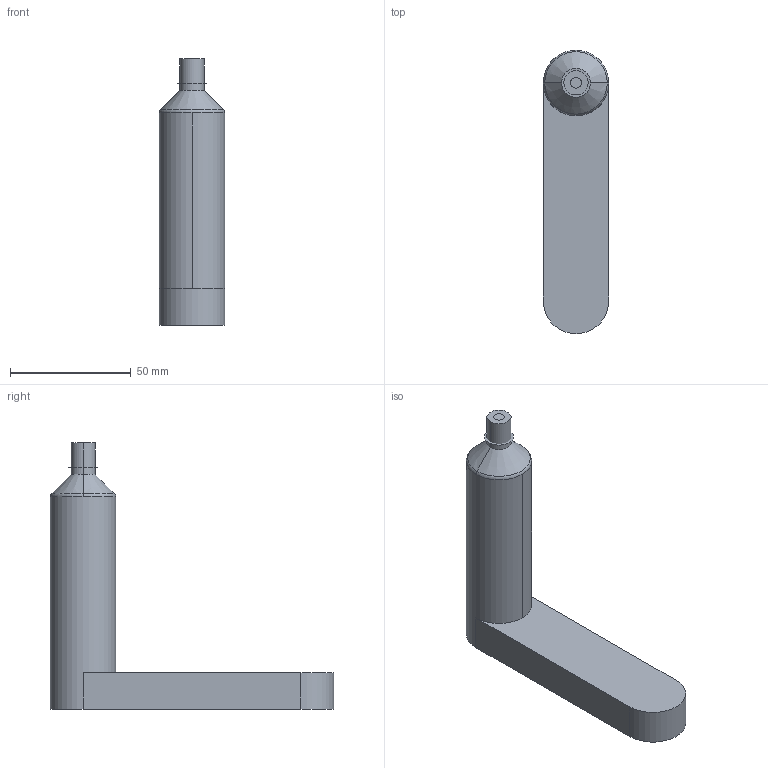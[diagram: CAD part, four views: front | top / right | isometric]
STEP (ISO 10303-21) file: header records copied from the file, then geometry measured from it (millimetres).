
FILE_DESCRIPTION (( 'STEP AP214' ), '1' );
FILE_NAME ('09E-03-100-##K.STEP', '2023-01-03T12:28:29', ( '' ), ( '' ), 'SwSTEP 2.0', 'SolidWorks 2018', '' );
FILE_SCHEMA (( 'AUTOMOTIVE_DESIGN' ));
Length unit declared in the file: millimetre
Products named in the file (7): 09nt-tnk_pdasm_09NT-TNK-20; nozzle_09E-03-100-##K; 09tn-k-01_09TN-K-20-01; 09nt-k01n_09NT-K01N-20; 09E-03-100-##K; cutout_09E-03-100-##K; 09ti-n_09TI-N-03
Assembly tree (6 placements, depth 4):
  09E-03-100-##K
    09nt-tnk_pdasm_09NT-TNK-20
      09nt-k01n_09NT-K01N-20
        09tn-k-01_09TN-K-20-01
        09ti-n_09TI-N-03
    nozzle_09E-03-100-##K
    cutout_09E-03-100-##K
Bounding box: 27 x 117 x 110 mm (x, y, z)
Volume: 91242.9 mm3; surface area: 46426.3 mm2
Topology: 2 solids, 7 shells, 380 faces, 967 edges, 601 vertices
Faces by surface type: cylinder 167, plane 102, cone 63, torus 44, bspline 4
Entity records: 15738 total; most frequent: CARTESIAN_POINT 6121, DIRECTION 2055, ORIENTED_EDGE 1930, EDGE_CURVE 967, AXIS2_PLACEMENT_3D 824, VERTEX_POINT 601, CIRCLE 436, VECTOR 407
